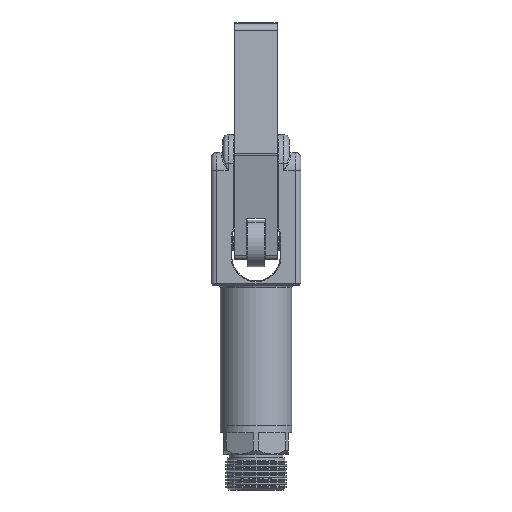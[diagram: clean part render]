
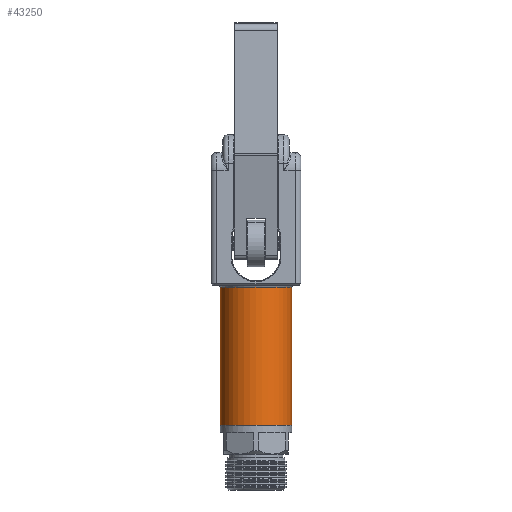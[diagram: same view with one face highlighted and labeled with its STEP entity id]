
A CAD part, front view. The second image highlights one B-rep face of the part: STEP entity #43250.
In plain terms, the highlighted cylindrical face has radius 10 mm (diameter 20 mm), a partial arc.
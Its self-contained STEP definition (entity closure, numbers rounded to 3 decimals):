
#1621 = CARTESIAN_POINT ( 'NONE',  ( -4.483, 3.262, 89.5 ) ) ;
#3459 = AXIS2_PLACEMENT_3D ( 'NONE', #28165, #72989, #34601 ) ;
#4229 = EDGE_CURVE ( 'NONE', #69387, #8087, #43681, .T. ) ;
#8052 = DIRECTION ( 'NONE',  ( 1., 0., 0. ) ) ;
#8087 = VERTEX_POINT ( 'NONE', #80353 ) ;
#9024 = VERTEX_POINT ( 'NONE', #54121 ) ;
#9103 = ORIENTED_EDGE ( 'NONE', *, *, #4229, .F. ) ;
#9588 = VECTOR ( 'NONE', #35566, 1000. ) ;
#15290 = VERTEX_POINT ( 'NONE', #78667 ) ;
#19174 = EDGE_CURVE ( 'NONE', #69387, #9024, #41621, .T. ) ;
#23870 = ORIENTED_EDGE ( 'NONE', *, *, #52957, .T. ) ;
#28165 = CARTESIAN_POINT ( 'NONE',  ( -4.483, 3.262, 51. ) ) ;
#28728 = VECTOR ( 'NONE', #30058, 1000. ) ;
#29061 = CARTESIAN_POINT ( 'NONE',  ( 5.517, 3.262, 89.5 ) ) ;
#30058 = DIRECTION ( 'NONE',  ( 0., 0., -1. ) ) ;
#34601 = DIRECTION ( 'NONE',  ( 0., -1., 0. ) ) ;
#35566 = DIRECTION ( 'NONE',  ( 0., 0., -1. ) ) ;
#41621 = CIRCLE ( 'NONE', #74267, 10. ) ;
#41970 = CARTESIAN_POINT ( 'NONE',  ( 5.517, 3.262, 90. ) ) ;
#43068 = CARTESIAN_POINT ( 'NONE',  ( -4.483, 3.262, 90. ) ) ;
#43250 = ADVANCED_FACE ( 'NONE', ( #69596 ), #78644, .T. ) ;
#43681 = LINE ( 'NONE', #41970, #9588 ) ;
#46465 = DIRECTION ( 'NONE',  ( 0., 0., -1. ) ) ;
#52957 = EDGE_CURVE ( 'NONE', #15290, #8087, #79586, .T. ) ;
#54121 = CARTESIAN_POINT ( 'NONE',  ( -14.483, 3.262, 89.5 ) ) ;
#56258 = ORIENTED_EDGE ( 'NONE', *, *, #19174, .T. ) ;
#60257 = EDGE_LOOP ( 'NONE', ( #9103, #56258, #78079, #23870 ) ) ;
#65200 = EDGE_CURVE ( 'NONE', #9024, #15290, #77821, .T. ) ;
#68326 = CARTESIAN_POINT ( 'NONE',  ( -14.483, 3.262, 90. ) ) ;
#69387 = VERTEX_POINT ( 'NONE', #29061 ) ;
#69596 = FACE_OUTER_BOUND ( 'NONE', #60257, .T. ) ;
#72989 = DIRECTION ( 'NONE',  ( 0., 0., 1. ) ) ;
#74267 = AXIS2_PLACEMENT_3D ( 'NONE', #1621, #46465, #8052 ) ;
#75008 = DIRECTION ( 'NONE',  ( 0., 0., -1. ) ) ;
#77821 = LINE ( 'NONE', #68326, #28728 ) ;
#78079 = ORIENTED_EDGE ( 'NONE', *, *, #65200, .T. ) ;
#78644 = CYLINDRICAL_SURFACE ( 'NONE', #81982, 10. ) ;
#78667 = CARTESIAN_POINT ( 'NONE',  ( -14.483, 3.262, 51. ) ) ;
#79586 = CIRCLE ( 'NONE', #3459, 10. ) ;
#80353 = CARTESIAN_POINT ( 'NONE',  ( 5.517, 3.262, 51. ) ) ;
#81774 = DIRECTION ( 'NONE',  ( -1., 0., 0. ) ) ;
#81982 = AXIS2_PLACEMENT_3D ( 'NONE', #43068, #75008, #81774 ) ;
